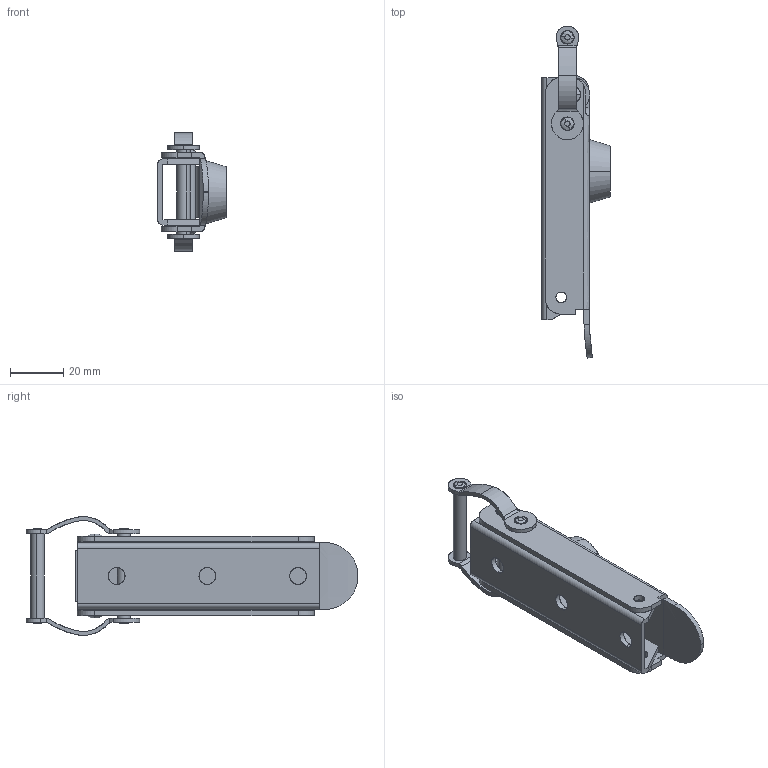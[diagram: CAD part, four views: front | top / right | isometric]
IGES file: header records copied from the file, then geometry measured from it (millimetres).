
Start section: SolidWorks IGES file using analytic representation for surfaces
Global section: file name: C:\Users\cbrechard.SAV\Desktop\GE 82\GE 82.IGS; native system: SolidWorks 2013; preprocessor: SolidWorks 2013; author: cbrechard; date: 151201.160521; units: millimetre
Bounding box: 25.75 x 124.4 x 44.47 mm (x, y, z)
Surface area: 25398.6 mm2 (no closed solid volume)
Topology: 0 solids, 0 shells, 214 faces, 3922 edges, 3922 vertices
Faces by surface type: revolution 110, bspline 104
